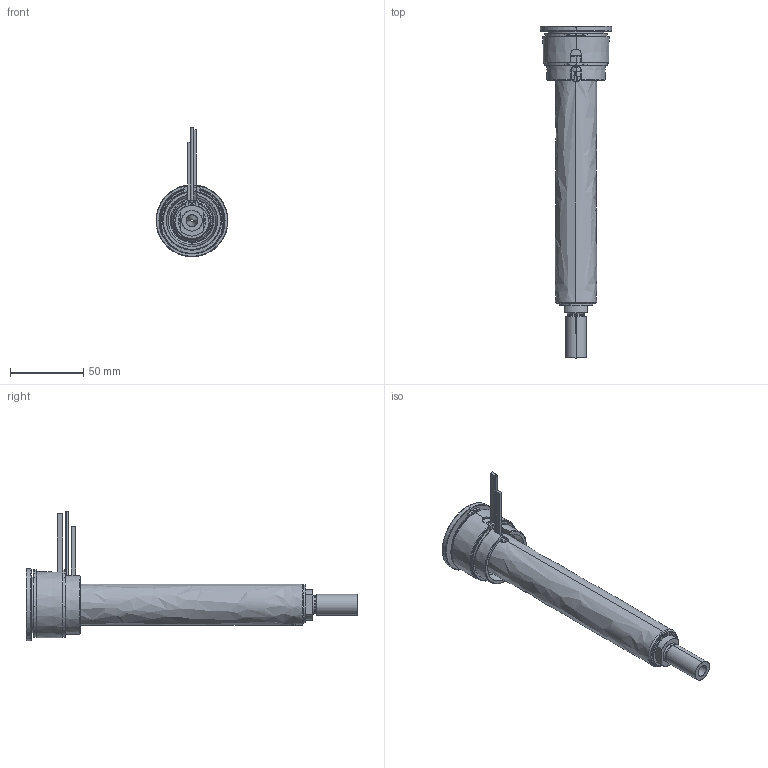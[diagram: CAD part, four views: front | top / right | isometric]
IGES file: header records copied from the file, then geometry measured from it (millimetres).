
Start section: SolidWorks IGES file using analytic representation for surfaces
Global section: file name: C:\Documents and Settings\ws-20\Desktop\TEM\UGBE4504-S-A-P-5 [Ød-2.0 P-25 ØC-09].IGS; native system: SolidWorks 2012; preprocessor: SolidWorks 2012; author: ws-20; date: 120412.153535; units: millimetre
Bounding box: 49 x 226 x 88.15 mm (x, y, z)
Surface area: 71305.3 mm2 (no closed solid volume)
Topology: 0 solids, 0 shells, 165 faces, 3143 edges, 3143 vertices
Faces by surface type: revolution 106, bspline 59
